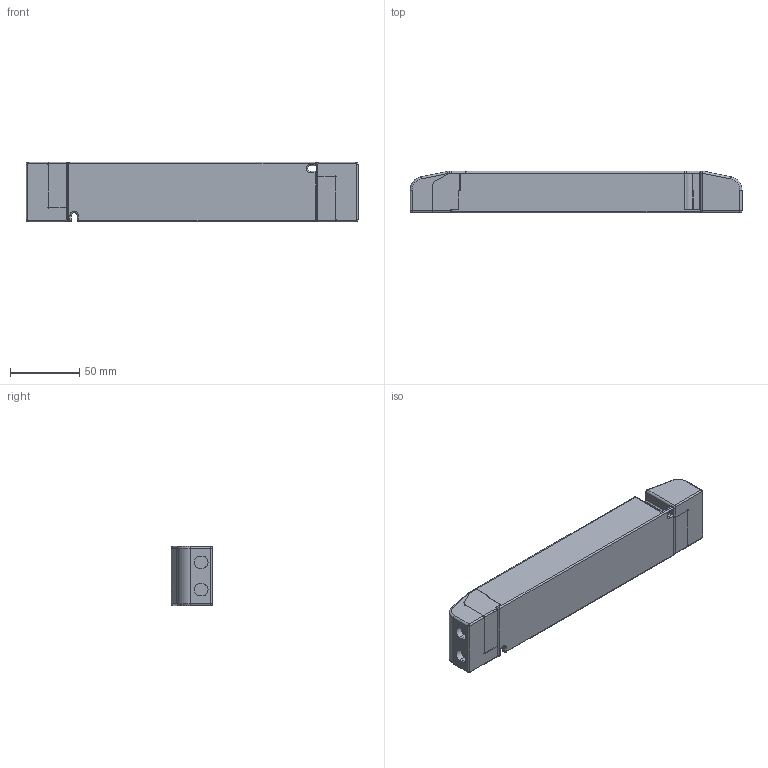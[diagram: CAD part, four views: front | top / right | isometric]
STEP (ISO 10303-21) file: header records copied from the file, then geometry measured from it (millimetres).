
FILE_DESCRIPTION((''),'2;1');
FILE_NAME('15014486Z_DATAMEC_LC_48V_SC5180','2021-04-20T09:04:03',('Juergen.Hrach'),(''),'CREO PARAMETRIC BY PTC INC, 2019164','CREO PARAMETRIC BY PTC INC, 2019164','');
FILE_SCHEMA(('CONFIG_CONTROL_DESIGN'));
Length unit declared in the file: millimetre
Products named in the file (6): DJHR_DATAMEC_LC_48V_SC5180; DEWI_SR-STD_DMEC; DEWI_SR-STD_DMEC_ASSY_180; DEWI_SR-MINI_DMEC; DEWI_SR-MINI_DMEC-ASSY_180; 15014486Z_DATAMEC_LC_48V_SC5180
Assembly tree (7 placements, depth 3):
  15014486Z_DATAMEC_LC_48V_SC5180
    DJHR_DATAMEC_LC_48V_SC5180
    DEWI_SR-STD_DMEC_ASSY_180
      DEWI_SR-STD_DMEC  x2
    DEWI_SR-MINI_DMEC-ASSY_180
      DEWI_SR-MINI_DMEC  x2
Bounding box: 240 x 30.2 x 43 mm (x, y, z)
Volume: 302659 mm3; surface area: 64114.3 mm2
Topology: 5 solids, 5 shells, 721 faces, 1942 edges, 1228 vertices
Faces by surface type: plane 439, cylinder 204, torus 24, bspline 20, sphere 18, cone 16
Entity records: 16779 total; most frequent: CARTESIAN_POINT 3401, ORIENTED_EDGE 2820, DIRECTION 2724, EDGE_CURVE 1410, VECTOR 1038, LINE 1038, VERTEX_POINT 904, AXIS2_PLACEMENT_3D 843
